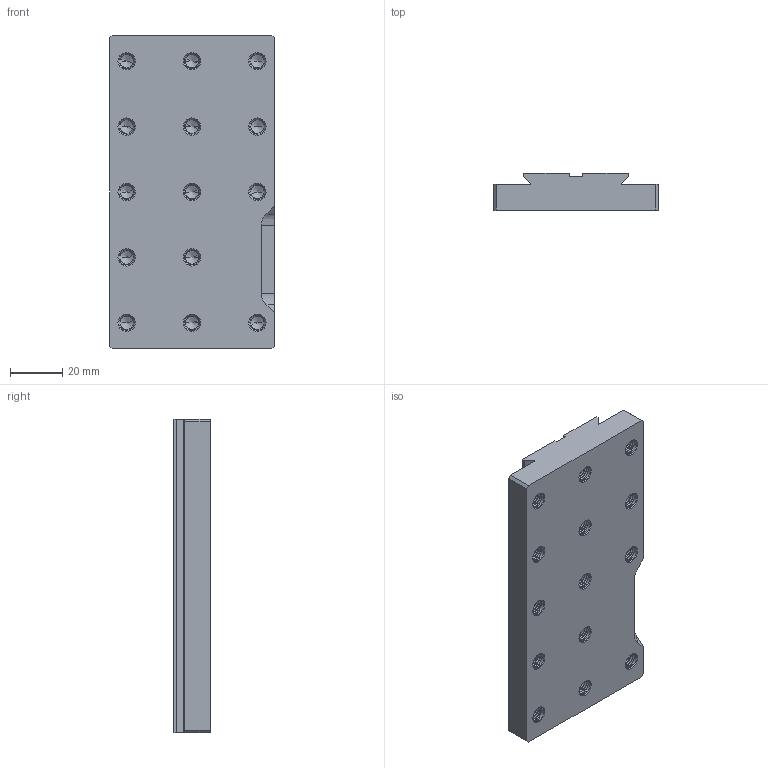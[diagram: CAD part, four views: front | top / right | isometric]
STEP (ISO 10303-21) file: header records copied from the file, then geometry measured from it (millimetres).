
FILE_DESCRIPTION((''),'2;1');
FILE_NAME('OPH-F120','2021-07-16T',('Administrator'),(''),'CREO PARAMETRIC BY PTC INC, 2015290','CREO PARAMETRIC BY PTC INC, 2015290','');
FILE_SCHEMA(('CONFIG_CONTROL_DESIGN'));
Length unit declared in the file: millimetre
Products named in the file (1): OPH-F120
Bounding box: 63 x 14 x 120 mm (x, y, z)
Volume: 89043 mm3; surface area: 23405.2 mm2
Topology: 1 solids, 1 shells, 377 faces, 1027 edges, 638 vertices
Faces by surface type: cylinder 184, bspline 112, cone 56, plane 23, extrusion 2
Entity records: 25763 total; most frequent: CARTESIAN_POINT 17682, ORIENTED_EDGE 1998, DIRECTION 1107, EDGE_CURVE 999, VERTEX_POINT 638, B_SPLINE_CURVE_WITH_KNOTS 510, VECTOR 405, LINE 403
